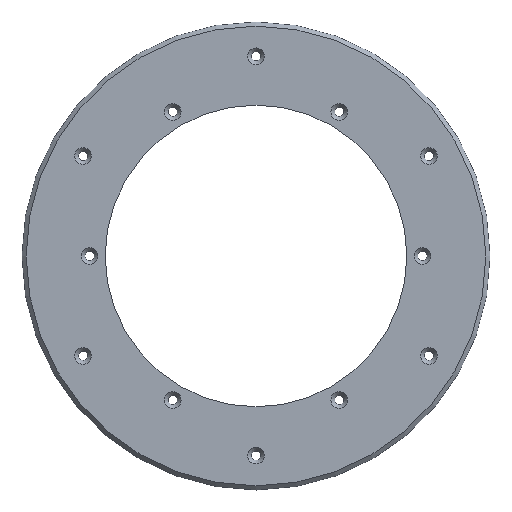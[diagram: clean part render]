
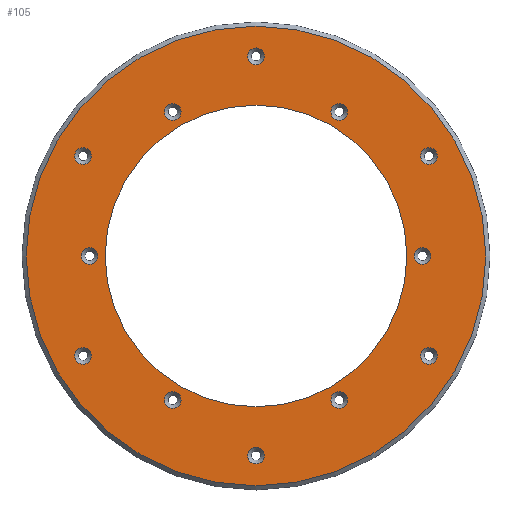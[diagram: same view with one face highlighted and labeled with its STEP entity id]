
A CAD part, top view. The second image highlights one B-rep face of the part: STEP entity #105.
In plain terms, the highlighted planar face has unit normal (0, 0, 1).
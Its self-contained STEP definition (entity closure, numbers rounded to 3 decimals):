
#105 = ADVANCED_FACE( '', ( #262, #263, #264, #265, #266, #267, #268, #269, #270, #271, #272, #273, #274, #275 ), #276, .F. );
#262 = FACE_OUTER_BOUND( '', #463, .T. );
#263 = FACE_BOUND( '', #464, .T. );
#264 = FACE_BOUND( '', #465, .T. );
#265 = FACE_BOUND( '', #466, .T. );
#266 = FACE_BOUND( '', #467, .T. );
#267 = FACE_BOUND( '', #468, .T. );
#268 = FACE_BOUND( '', #469, .T. );
#269 = FACE_BOUND( '', #470, .T. );
#270 = FACE_BOUND( '', #471, .T. );
#271 = FACE_BOUND( '', #472, .T. );
#272 = FACE_BOUND( '', #473, .T. );
#273 = FACE_BOUND( '', #474, .T. );
#274 = FACE_BOUND( '', #475, .T. );
#275 = FACE_BOUND( '', #476, .T. );
#276 = PLANE( '', #477 );
#463 = EDGE_LOOP( '', ( #698 ) );
#464 = EDGE_LOOP( '', ( #699 ) );
#465 = EDGE_LOOP( '', ( #700 ) );
#466 = EDGE_LOOP( '', ( #701 ) );
#467 = EDGE_LOOP( '', ( #702 ) );
#468 = EDGE_LOOP( '', ( #703 ) );
#469 = EDGE_LOOP( '', ( #704 ) );
#470 = EDGE_LOOP( '', ( #705 ) );
#471 = EDGE_LOOP( '', ( #706 ) );
#472 = EDGE_LOOP( '', ( #707 ) );
#473 = EDGE_LOOP( '', ( #708 ) );
#474 = EDGE_LOOP( '', ( #709 ) );
#475 = EDGE_LOOP( '', ( #710 ) );
#476 = EDGE_LOOP( '', ( #711 ) );
#477 = AXIS2_PLACEMENT_3D( '', #712, #713, #714 );
#698 = ORIENTED_EDGE( '', *, *, #874, .T. );
#699 = ORIENTED_EDGE( '', *, *, #899, .T. );
#700 = ORIENTED_EDGE( '', *, *, #900, .T. );
#701 = ORIENTED_EDGE( '', *, *, #901, .T. );
#702 = ORIENTED_EDGE( '', *, *, #897, .T. );
#703 = ORIENTED_EDGE( '', *, *, #902, .T. );
#704 = ORIENTED_EDGE( '', *, *, #903, .T. );
#705 = ORIENTED_EDGE( '', *, *, #904, .T. );
#706 = ORIENTED_EDGE( '', *, *, #905, .T. );
#707 = ORIENTED_EDGE( '', *, *, #848, .T. );
#708 = ORIENTED_EDGE( '', *, *, #863, .T. );
#709 = ORIENTED_EDGE( '', *, *, #842, .T. );
#710 = ORIENTED_EDGE( '', *, *, #906, .T. );
#711 = ORIENTED_EDGE( '', *, *, #857, .T. );
#712 = CARTESIAN_POINT( '', ( 0., 0., 4. ) );
#713 = DIRECTION( '', ( 0., 0., -1. ) );
#714 = DIRECTION( '', ( -1., 0., 0. ) );
#842 = EDGE_CURVE( '', #946, #946, #947, .T. );
#848 = EDGE_CURVE( '', #956, #956, #957, .T. );
#857 = EDGE_CURVE( '', #971, #971, #972, .T. );
#863 = EDGE_CURVE( '', #981, #981, #982, .T. );
#874 = EDGE_CURVE( '', #999, #999, #1000, .F. );
#897 = EDGE_CURVE( '', #1033, #1033, #1034, .T. );
#899 = EDGE_CURVE( '', #1036, #1036, #1037, .T. );
#900 = EDGE_CURVE( '', #1038, #1038, #1039, .T. );
#901 = EDGE_CURVE( '', #1040, #1040, #1041, .T. );
#902 = EDGE_CURVE( '', #1042, #1042, #1043, .T. );
#903 = EDGE_CURVE( '', #1044, #1044, #1045, .T. );
#904 = EDGE_CURVE( '', #1046, #1046, #1047, .T. );
#905 = EDGE_CURVE( '', #1048, #1048, #1049, .T. );
#906 = EDGE_CURVE( '', #1050, #1050, #1051, .T. );
#946 = VERTEX_POINT( '', #1093 );
#947 = CIRCLE( '', #1094, 4. );
#956 = VERTEX_POINT( '', #1103 );
#957 = CIRCLE( '', #1104, 4. );
#971 = VERTEX_POINT( '', #1118 );
#972 = CIRCLE( '', #1119, 72.5 );
#981 = VERTEX_POINT( '', #1128 );
#982 = CIRCLE( '', #1129, 4. );
#999 = VERTEX_POINT( '', #1146 );
#1000 = CIRCLE( '', #1147, 110.5 );
#1033 = VERTEX_POINT( '', #1180 );
#1034 = CIRCLE( '', #1181, 4. );
#1036 = VERTEX_POINT( '', #1183 );
#1037 = CIRCLE( '', #1184, 4. );
#1038 = VERTEX_POINT( '', #1185 );
#1039 = CIRCLE( '', #1186, 4. );
#1040 = VERTEX_POINT( '', #1187 );
#1041 = CIRCLE( '', #1188, 4. );
#1042 = VERTEX_POINT( '', #1189 );
#1043 = CIRCLE( '', #1190, 4. );
#1044 = VERTEX_POINT( '', #1191 );
#1045 = CIRCLE( '', #1192, 4. );
#1046 = VERTEX_POINT( '', #1193 );
#1047 = CIRCLE( '', #1194, 4. );
#1048 = VERTEX_POINT( '', #1195 );
#1049 = CIRCLE( '', #1196, 4. );
#1050 = VERTEX_POINT( '', #1197 );
#1051 = CIRCLE( '', #1198, 4. );
#1093 = CARTESIAN_POINT( '', ( 86.603, 50., 4. ) );
#1094 = AXIS2_PLACEMENT_3D( '', #1241, #1242, #1243 );
#1103 = CARTESIAN_POINT( '', ( 0., -100., 4. ) );
#1104 = AXIS2_PLACEMENT_3D( '', #1253, #1254, #1255 );
#1118 = CARTESIAN_POINT( '', ( 72.5, 0., 4. ) );
#1119 = AXIS2_PLACEMENT_3D( '', #1271, #1272, #1273 );
#1128 = CARTESIAN_POINT( '', ( 86.603, -50., 4. ) );
#1129 = AXIS2_PLACEMENT_3D( '', #1283, #1284, #1285 );
#1146 = CARTESIAN_POINT( '', ( -110.5, 0., 4. ) );
#1147 = AXIS2_PLACEMENT_3D( '', #1304, #1305, #1306 );
#1180 = CARTESIAN_POINT( '', ( 43.464, -71.282, 4. ) );
#1181 = AXIS2_PLACEMENT_3D( '', #1346, #1347, #1348 );
#1183 = CARTESIAN_POINT( '', ( -43.464, 71.282, 4. ) );
#1184 = AXIS2_PLACEMENT_3D( '', #1349, #1350, #1351 );
#1185 = CARTESIAN_POINT( '', ( -83.464, -2., 4. ) );
#1186 = AXIS2_PLACEMENT_3D( '', #1352, #1353, #1354 );
#1187 = CARTESIAN_POINT( '', ( -40., -73.282, 4. ) );
#1188 = AXIS2_PLACEMENT_3D( '', #1355, #1356, #1357 );
#1189 = CARTESIAN_POINT( '', ( 83.464, 2., 4. ) );
#1190 = AXIS2_PLACEMENT_3D( '', #1358, #1359, #1360 );
#1191 = CARTESIAN_POINT( '', ( 40., 73.282, 4. ) );
#1192 = AXIS2_PLACEMENT_3D( '', #1361, #1362, #1363 );
#1193 = CARTESIAN_POINT( '', ( -86.603, 50., 4. ) );
#1194 = AXIS2_PLACEMENT_3D( '', #1364, #1365, #1366 );
#1195 = CARTESIAN_POINT( '', ( -86.603, -50., 4. ) );
#1196 = AXIS2_PLACEMENT_3D( '', #1367, #1368, #1369 );
#1197 = CARTESIAN_POINT( '', ( 0., 100., 4. ) );
#1198 = AXIS2_PLACEMENT_3D( '', #1370, #1371, #1372 );
#1241 = CARTESIAN_POINT( '', ( 83.138, 48., 4. ) );
#1242 = DIRECTION( '', ( 0., 0., -1. ) );
#1243 = DIRECTION( '', ( 0.866, 0.5, 0. ) );
#1253 = CARTESIAN_POINT( '', ( 0., -96., 4. ) );
#1254 = DIRECTION( '', ( 0., 0., -1. ) );
#1255 = DIRECTION( '', ( 0., -1., 0. ) );
#1271 = CARTESIAN_POINT( '', ( 0., 0., 4. ) );
#1272 = DIRECTION( '', ( 0., 0., -1. ) );
#1273 = DIRECTION( '', ( 1., 0., 0. ) );
#1283 = CARTESIAN_POINT( '', ( 83.138, -48., 4. ) );
#1284 = DIRECTION( '', ( 0., 0., -1. ) );
#1285 = DIRECTION( '', ( 0.866, -0.5, 0. ) );
#1304 = CARTESIAN_POINT( '', ( 0., 0., 4. ) );
#1305 = DIRECTION( '', ( 0., 0., -1. ) );
#1306 = DIRECTION( '', ( -1., 0., 0. ) );
#1346 = CARTESIAN_POINT( '', ( 40., -69.282, 4. ) );
#1347 = DIRECTION( '', ( 0., 0., -1. ) );
#1348 = DIRECTION( '', ( 0.866, -0.5, 0. ) );
#1349 = CARTESIAN_POINT( '', ( -40., 69.282, 4. ) );
#1350 = DIRECTION( '', ( 0., 0., -1. ) );
#1351 = DIRECTION( '', ( -0.866, 0.5, 0. ) );
#1352 = CARTESIAN_POINT( '', ( -80., 0., 4. ) );
#1353 = DIRECTION( '', ( 0., 0., -1. ) );
#1354 = DIRECTION( '', ( -0.866, -0.5, 0. ) );
#1355 = CARTESIAN_POINT( '', ( -40., -69.282, 4. ) );
#1356 = DIRECTION( '', ( 0., 0., -1. ) );
#1357 = DIRECTION( '', ( 0., -1., 0. ) );
#1358 = CARTESIAN_POINT( '', ( 80., 0., 4. ) );
#1359 = DIRECTION( '', ( 0., 0., -1. ) );
#1360 = DIRECTION( '', ( 0.866, 0.5, 0. ) );
#1361 = CARTESIAN_POINT( '', ( 40., 69.282, 4. ) );
#1362 = DIRECTION( '', ( 0., 0., -1. ) );
#1363 = DIRECTION( '', ( 0., 1., 0. ) );
#1364 = CARTESIAN_POINT( '', ( -83.138, 48., 4. ) );
#1365 = DIRECTION( '', ( 0., 0., -1. ) );
#1366 = DIRECTION( '', ( -0.866, 0.5, 0. ) );
#1367 = CARTESIAN_POINT( '', ( -83.138, -48., 4. ) );
#1368 = DIRECTION( '', ( 0., 0., -1. ) );
#1369 = DIRECTION( '', ( -0.866, -0.5, 0. ) );
#1370 = CARTESIAN_POINT( '', ( 0., 96., 4. ) );
#1371 = DIRECTION( '', ( 0., 0., -1. ) );
#1372 = DIRECTION( '', ( 0., 1., 0. ) );
